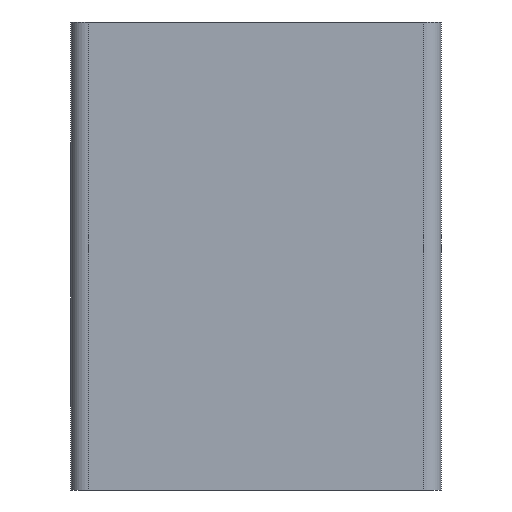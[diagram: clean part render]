
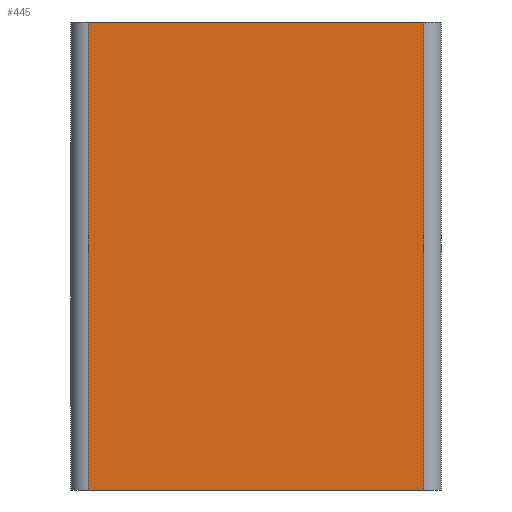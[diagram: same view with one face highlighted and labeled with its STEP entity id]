
A CAD part, left-side view. The second image highlights one B-rep face of the part: STEP entity #445.
In plain terms, the highlighted planar face has unit normal (-1, 0, 0).
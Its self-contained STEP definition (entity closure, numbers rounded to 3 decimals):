
#26=PLANE('',#494);
#47=FACE_OUTER_BOUND('',#73,.T.);
#73=EDGE_LOOP('',(#339,#340,#341,#342));
#108=LINE('',#835,#152);
#110=LINE('',#841,#154);
#111=LINE('',#843,#155);
#112=LINE('',#844,#156);
#152=VECTOR('',#570,10.);
#154=VECTOR('',#576,10.);
#155=VECTOR('',#577,10.);
#156=VECTOR('',#578,10.);
#215=VERTEX_POINT('',#832);
#216=VERTEX_POINT('',#834);
#218=VERTEX_POINT('',#840);
#219=VERTEX_POINT('',#842);
#265=EDGE_CURVE('',#215,#216,#108,.T.);
#268=EDGE_CURVE('',#218,#215,#110,.T.);
#269=EDGE_CURVE('',#219,#218,#111,.T.);
#270=EDGE_CURVE('',#219,#216,#112,.T.);
#339=ORIENTED_EDGE('',*,*,#265,.F.);
#340=ORIENTED_EDGE('',*,*,#268,.F.);
#341=ORIENTED_EDGE('',*,*,#269,.F.);
#342=ORIENTED_EDGE('',*,*,#270,.T.);
#445=ADVANCED_FACE('',(#47),#26,.T.);
#494=AXIS2_PLACEMENT_3D('',#839,#574,#575);
#570=DIRECTION('',(0.,0.,-1.));
#574=DIRECTION('center_axis',(-1.,0.,0.));
#575=DIRECTION('ref_axis',(0.,-1.,0.));
#576=DIRECTION('',(0.,-1.,0.));
#577=DIRECTION('',(0.,0.,1.));
#578=DIRECTION('',(0.,-1.,0.));
#832=CARTESIAN_POINT('',(0.,5.,132.5));
#834=CARTESIAN_POINT('',(0.,5.,0.));
#835=CARTESIAN_POINT('',(0.,5.,0.));
#839=CARTESIAN_POINT('Origin',(0.,105.,0.));
#840=CARTESIAN_POINT('',(0.,100.,132.5));
#841=CARTESIAN_POINT('',(0.,105.,132.5));
#842=CARTESIAN_POINT('',(0.,100.,0.));
#843=CARTESIAN_POINT('',(0.,100.,0.));
#844=CARTESIAN_POINT('',(0.,105.,0.));
